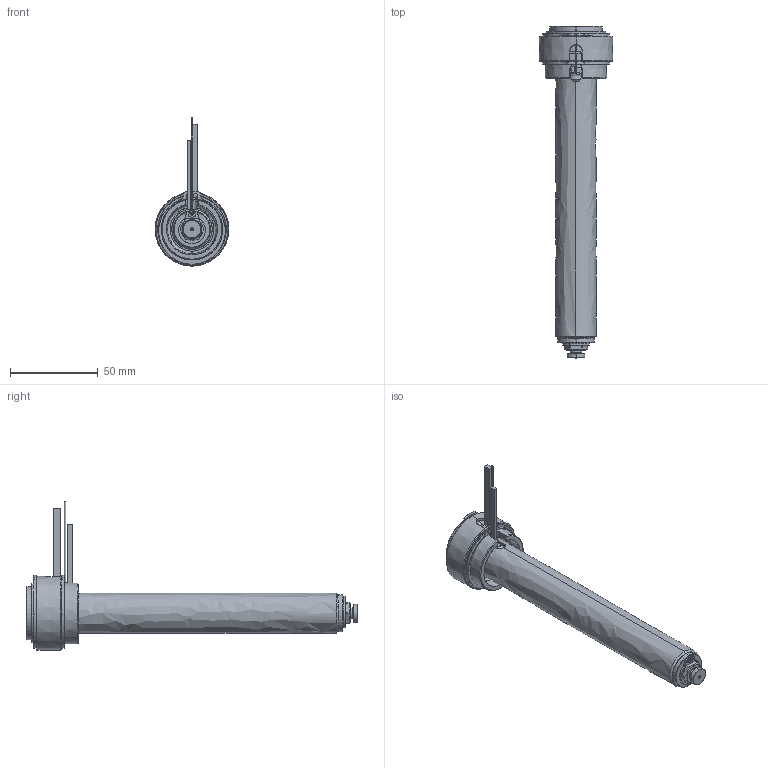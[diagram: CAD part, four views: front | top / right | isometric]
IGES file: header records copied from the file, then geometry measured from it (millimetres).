
Start section: SolidWorks IGES file using analytic representation for surfaces
Global section: file name: C:\Users\luca.EMPAD\Desktop\TEM\UGBE3504-M-A-3 [Ød-1.0 P-0 ØC-7.0].IGS; native system: SolidWorks 2012; preprocessor: SolidWorks 2012; author: luca; date: 120330.140546; units: millimetre
Bounding box: 42 x 189 x 84.4 mm (x, y, z)
Surface area: 34750.6 mm2 (no closed solid volume)
Topology: 0 solids, 0 shells, 174 faces, 3112 edges, 3112 vertices
Faces by surface type: revolution 111, bspline 63
